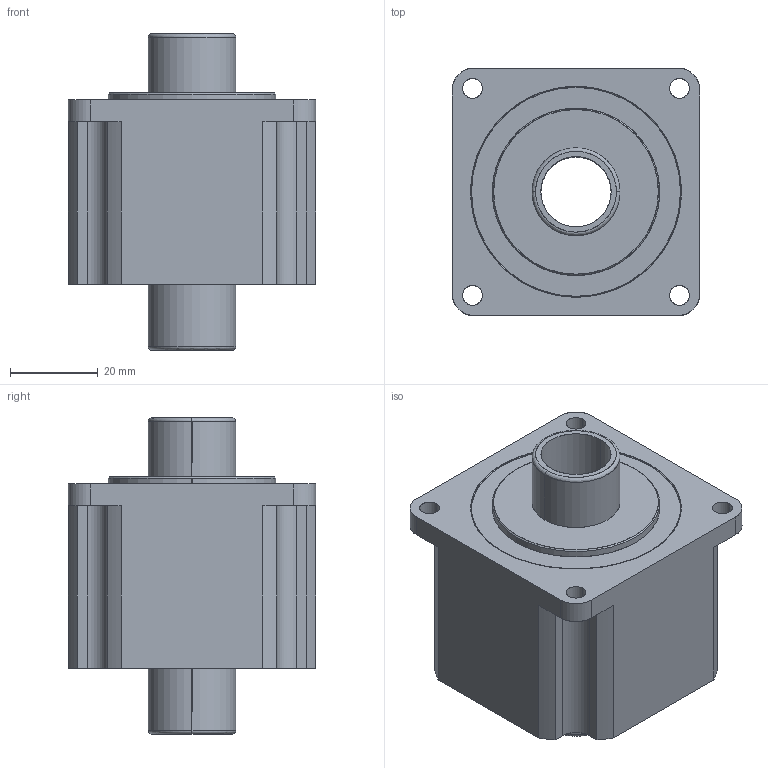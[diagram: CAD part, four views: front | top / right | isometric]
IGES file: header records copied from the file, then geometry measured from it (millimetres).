
Start section: SolidWorks IGES file using analytic representation for surfaces
Bounding box: 56.4 x 56.4 x 72 mm (x, y, z)
Surface area: 20357 mm2 (no closed solid volume)
Topology: 0 solids, 0 shells, 64 faces, 1112 edges, 1112 vertices
Faces by surface type: revolution 38, bspline 26
